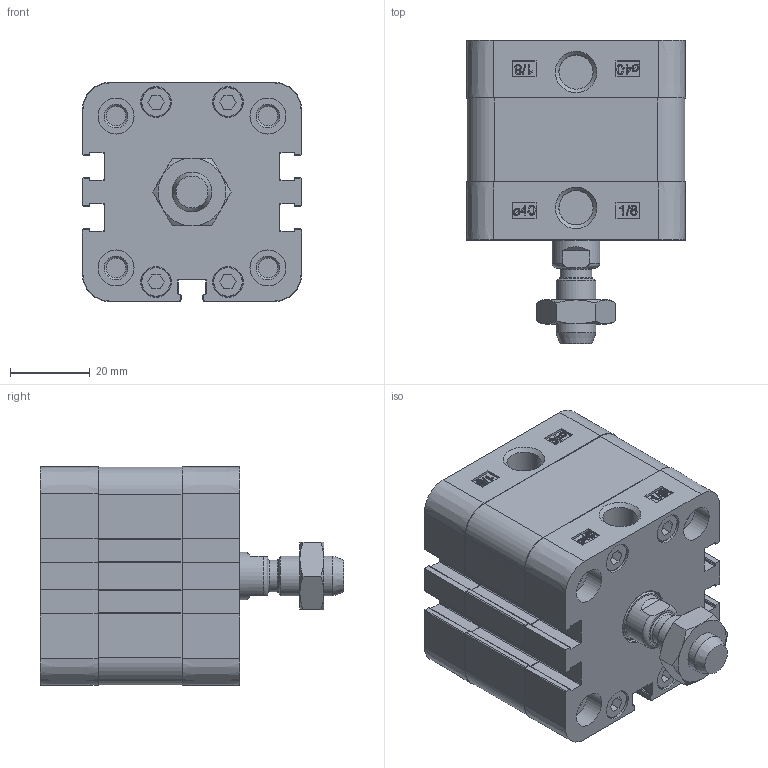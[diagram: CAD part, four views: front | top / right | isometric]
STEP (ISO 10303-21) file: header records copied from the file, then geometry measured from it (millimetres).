
FILE_DESCRIPTION(/* description */ ('Unknown'),/* implementation_level */ '2;1');
FILE_NAME(/* name */ 'ZEF 40_5',/* time_stamp */ '2024-09-11T12:54:30+02:00',/* author */ ('Unknown'),/* organization */ ('Unknown'),/* preprocessor_version */ 'ST-DEVELOPER v16.7',/* originating_system */ 'Solid Edge',/* authorisation */ 'Unknown');
FILE_SCHEMA (('AUTOMOTIVE_DESIGN {1 0 10303 214 3 1 1}'));
Length unit declared in the file: millimetre
Products named in the file (6): ZEF 40_5; Mutter; Profilrohr; Kolbenstange; Kit_1; Kit_2
Assembly tree (5 placements, depth 2):
  ZEF 40_5
    Mutter
    Profilrohr
    Kolbenstange
    Kit_1
    Kit_2
Bounding box: 54.8 x 76 x 54.8 mm (x, y, z)
Volume: 130665.5 mm3; surface area: 42605.4 mm2
Topology: 5 solids, 13 shells, 725 faces, 1875 edges, 1236 vertices
Faces by surface type: plane 354, cylinder 195, bspline 88, torus 45, cone 43
Full cylindrical faces by diameter (mm): 4.917 x8, 5.2 x8, 7.5 x8, 7.7 x8, 7.9 x1, 8.566 x2, 8.647 x1, 9 x9, 10 x1, 12 x1, 12.54 x1, 13.7 x1, 14 x1, 16.5 x1, 40 x2
Entity records: 26930 total; most frequent: CARTESIAN_POINT 5487, ORIENTED_EDGE 3496, DIRECTION 3258, EDGE_CURVE 1748, VERTEX_POINT 1208, AXIS2_PLACEMENT_3D 1120, LINE 1018, VECTOR 1018
